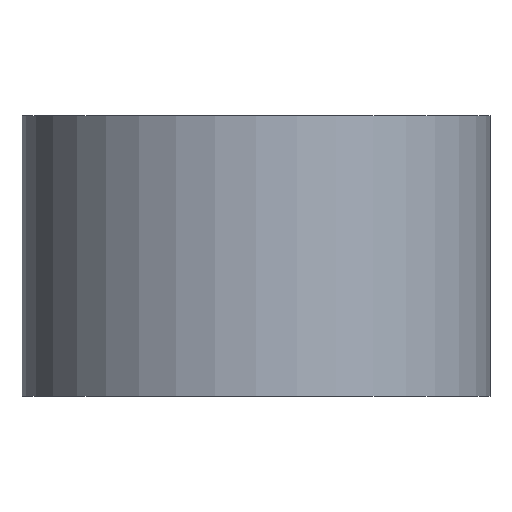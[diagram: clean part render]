
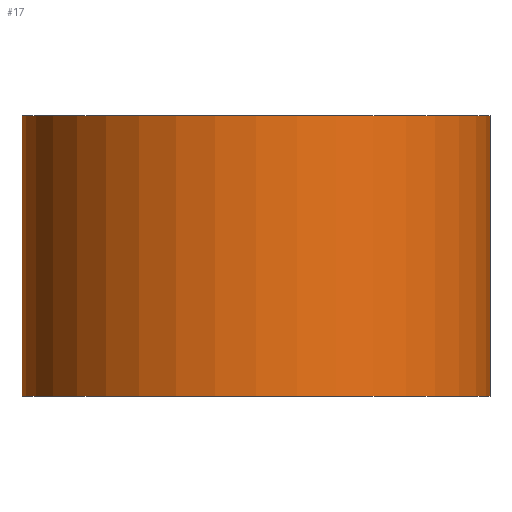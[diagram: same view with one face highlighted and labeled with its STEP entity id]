
A CAD part, front view. The second image highlights one B-rep face of the part: STEP entity #17.
In plain terms, the highlighted cylindrical face has radius 2.5 mm (diameter 5 mm), a full revolution.
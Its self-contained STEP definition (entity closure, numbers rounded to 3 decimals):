
#17 = ADVANCED_FACE('',(#18),#32,.T.);
#18 = FACE_BOUND('',#19,.F.);
#19 = EDGE_LOOP('',(#20,#50,#77,#78));
#20 = ORIENTED_EDGE('',*,*,#21,.T.);
#21 = EDGE_CURVE('',#22,#24,#26,.T.);
#22 = VERTEX_POINT('',#23);
#23 = CARTESIAN_POINT('',(2.5,0.,0.));
#24 = VERTEX_POINT('',#25);
#25 = CARTESIAN_POINT('',(2.5,0.,3.));
#26 = SEAM_CURVE('',#27,(#31,#43),.PCURVE_S1.);
#27 = LINE('',#28,#29);
#28 = CARTESIAN_POINT('',(2.5,0.,0.));
#29 = VECTOR('',#30,1.);
#30 = DIRECTION('',(0.,0.,1.));
#31 = PCURVE('',#32,#37);
#32 = CYLINDRICAL_SURFACE('',#33,2.5);
#33 = AXIS2_PLACEMENT_3D('',#34,#35,#36);
#34 = CARTESIAN_POINT('',(0.,0.,0.));
#35 = DIRECTION('',(-0.,-0.,-1.));
#36 = DIRECTION('',(1.,0.,0.));
#37 = DEFINITIONAL_REPRESENTATION('',(#38),#42);
#38 = LINE('',#39,#40);
#39 = CARTESIAN_POINT('',(-0.,0.));
#40 = VECTOR('',#41,1.);
#41 = DIRECTION('',(-0.,-1.));
#42 = ( GEOMETRIC_REPRESENTATION_CONTEXT(2) 
PARAMETRIC_REPRESENTATION_CONTEXT() REPRESENTATION_CONTEXT('2D SPACE',''
  ) );
#43 = PCURVE('',#32,#44);
#44 = DEFINITIONAL_REPRESENTATION('',(#45),#49);
#45 = LINE('',#46,#47);
#46 = CARTESIAN_POINT('',(-6.283,0.));
#47 = VECTOR('',#48,1.);
#48 = DIRECTION('',(-0.,-1.));
#49 = ( GEOMETRIC_REPRESENTATION_CONTEXT(2) 
PARAMETRIC_REPRESENTATION_CONTEXT() REPRESENTATION_CONTEXT('2D SPACE',''
  ) );
#50 = ORIENTED_EDGE('',*,*,#51,.T.);
#51 = EDGE_CURVE('',#24,#24,#52,.T.);
#52 = SURFACE_CURVE('',#53,(#58,#65),.PCURVE_S1.);
#53 = CIRCLE('',#54,2.5);
#54 = AXIS2_PLACEMENT_3D('',#55,#56,#57);
#55 = CARTESIAN_POINT('',(0.,0.,3.));
#56 = DIRECTION('',(0.,0.,1.));
#57 = DIRECTION('',(1.,0.,0.));
#58 = PCURVE('',#32,#59);
#59 = DEFINITIONAL_REPRESENTATION('',(#60),#64);
#60 = LINE('',#61,#62);
#61 = CARTESIAN_POINT('',(-0.,-3.));
#62 = VECTOR('',#63,1.);
#63 = DIRECTION('',(-1.,0.));
#64 = ( GEOMETRIC_REPRESENTATION_CONTEXT(2) 
PARAMETRIC_REPRESENTATION_CONTEXT() REPRESENTATION_CONTEXT('2D SPACE',''
  ) );
#65 = PCURVE('',#66,#71);
#66 = PLANE('',#67);
#67 = AXIS2_PLACEMENT_3D('',#68,#69,#70);
#68 = CARTESIAN_POINT('',(0.,0.,3.));
#69 = DIRECTION('',(0.,0.,1.));
#70 = DIRECTION('',(1.,0.,-0.));
#71 = DEFINITIONAL_REPRESENTATION('',(#72),#76);
#72 = CIRCLE('',#73,2.5);
#73 = AXIS2_PLACEMENT_2D('',#74,#75);
#74 = CARTESIAN_POINT('',(0.,0.));
#75 = DIRECTION('',(1.,0.));
#76 = ( GEOMETRIC_REPRESENTATION_CONTEXT(2) 
PARAMETRIC_REPRESENTATION_CONTEXT() REPRESENTATION_CONTEXT('2D SPACE',''
  ) );
#77 = ORIENTED_EDGE('',*,*,#21,.F.);
#78 = ORIENTED_EDGE('',*,*,#79,.F.);
#79 = EDGE_CURVE('',#22,#22,#80,.T.);
#80 = SURFACE_CURVE('',#81,(#86,#93),.PCURVE_S1.);
#81 = CIRCLE('',#82,2.5);
#82 = AXIS2_PLACEMENT_3D('',#83,#84,#85);
#83 = CARTESIAN_POINT('',(0.,0.,0.));
#84 = DIRECTION('',(0.,0.,1.));
#85 = DIRECTION('',(1.,0.,0.));
#86 = PCURVE('',#32,#87);
#87 = DEFINITIONAL_REPRESENTATION('',(#88),#92);
#88 = LINE('',#89,#90);
#89 = CARTESIAN_POINT('',(-0.,0.));
#90 = VECTOR('',#91,1.);
#91 = DIRECTION('',(-1.,0.));
#92 = ( GEOMETRIC_REPRESENTATION_CONTEXT(2) 
PARAMETRIC_REPRESENTATION_CONTEXT() REPRESENTATION_CONTEXT('2D SPACE',''
  ) );
#93 = PCURVE('',#94,#99);
#94 = PLANE('',#95);
#95 = AXIS2_PLACEMENT_3D('',#96,#97,#98);
#96 = CARTESIAN_POINT('',(0.,0.,0.));
#97 = DIRECTION('',(0.,0.,1.));
#98 = DIRECTION('',(1.,0.,-0.));
#99 = DEFINITIONAL_REPRESENTATION('',(#100),#104);
#100 = CIRCLE('',#101,2.5);
#101 = AXIS2_PLACEMENT_2D('',#102,#103);
#102 = CARTESIAN_POINT('',(0.,0.));
#103 = DIRECTION('',(1.,0.));
#104 = ( GEOMETRIC_REPRESENTATION_CONTEXT(2) 
PARAMETRIC_REPRESENTATION_CONTEXT() REPRESENTATION_CONTEXT('2D SPACE',''
  ) );
